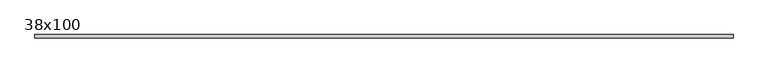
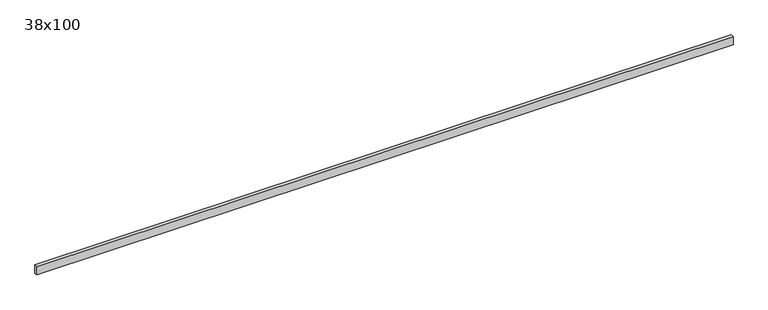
"""IFC4 building model written with IfcOpenShell, lengths in millimetres: beam geometry, Poutre - Bois de construction de dimensions courantes : 38x100."""

from ifc_helpers import new_model, si_unit, frame, origin, place, context, project, spatial, polyline, outline, extrude, source, transform, mapped, element, save


def beam_38x100_1eeae23a(model_context):
    return source(origin(), model_context, "Body", "SweptSolid", [
        extrude(outline(polyline([(4114.0, 19.05), (4114.0, -19.05), (-4114.0, -19.05), (-4114.0, 19.05), (4114.0, 19.05)])), frame((0.0, 0.0, -50.0), z_axis=(0.0, 0.0, 1.0), x_axis=(1.0, 0.0, 0.0)), (0.0, 0.0, 1.0), 100.0),
    ])


if __name__ == "__main__":
    model = new_model("IFC4")
    model_context = context("Model", 3, world=origin())
    ifc_project = project(units=[si_unit("LENGTHUNIT", "METRE", prefix="MILLI")], contexts=[model_context])
    site = spatial("IfcSite", under=ifc_project)
    building = spatial("IfcBuilding", under=site)
    placement = place(None, origin())
    beam_38x100_shape = beam_38x100_1eeae23a(model_context)
    element("IfcBeam", 1, ObjectType="Poutre - Bois de construction de dimensions courantes : 38x100", at=placement, inside=building, context=model_context, shape_type="MappedRepresentation", body=[
        mapped(beam_38x100_shape, transform((0.0, 0.0, 0.0), x_axis=(1.0, 0.0, 0.0), y_axis=(0.0, 1.0, 0.0), z_axis=(0.0, 0.0, 1.0))),
    ])
    save(model, "model.ifc")
